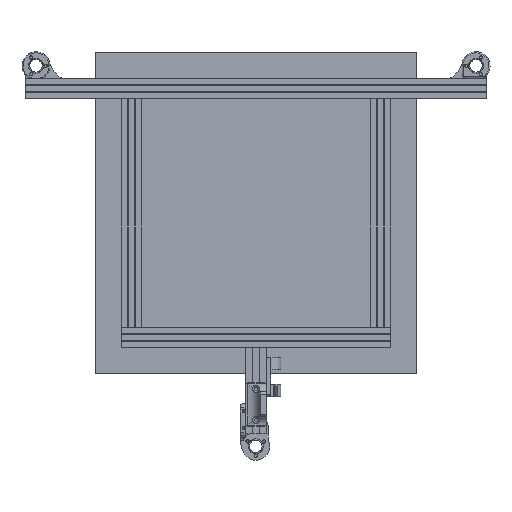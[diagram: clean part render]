
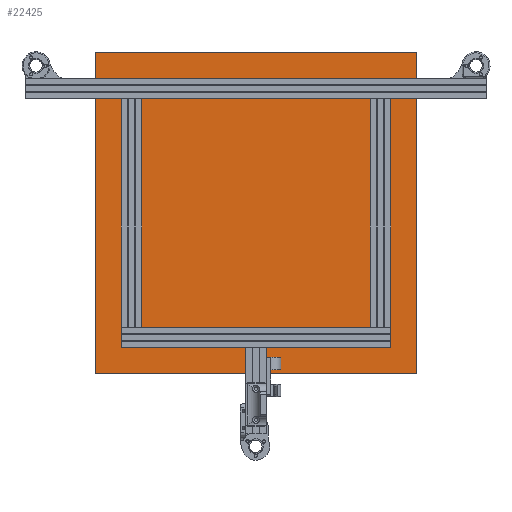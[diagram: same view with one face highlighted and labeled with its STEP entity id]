
A CAD part, front view. The second image highlights one B-rep face of the part: STEP entity #22425.
In plain terms, the highlighted planar face has unit normal (0, -1, 0) as drawn and (0, 0, -1) by its records, which use the part's own axes.
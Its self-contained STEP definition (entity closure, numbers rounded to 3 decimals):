
#104 = LINE ( 'NONE', #12448, #21754 ) ;
#422 = VECTOR ( 'NONE', #4735, 1000. ) ;
#605 = CIRCLE ( 'NONE', #9090, 2. ) ;
#658 = CARTESIAN_POINT ( 'NONE',  ( -120., -120., 0. ) ) ;
#855 = DIRECTION ( 'NONE',  ( 0., 0., 1. ) ) ;
#1354 = AXIS2_PLACEMENT_3D ( 'NONE', #11448, #855, #18484 ) ;
#1377 = LINE ( 'NONE', #15314, #6394 ) ;
#2179 = DIRECTION ( 'NONE',  ( 1., 0., 0. ) ) ;
#2246 = CARTESIAN_POINT ( 'NONE',  ( 120., -120., 0. ) ) ;
#2369 = DIRECTION ( 'NONE',  ( 1., 0., 0. ) ) ;
#2487 = VERTEX_POINT ( 'NONE', #10681 ) ;
#2858 = DIRECTION ( 'NONE',  ( 0., -1., 0. ) ) ;
#3085 = ORIENTED_EDGE ( 'NONE', *, *, #7089, .T. ) ;
#3139 = CARTESIAN_POINT ( 'NONE',  ( 122., -120., 0. ) ) ;
#3487 = ORIENTED_EDGE ( 'NONE', *, *, #12320, .T. ) ;
#3901 = CARTESIAN_POINT ( 'NONE',  ( -122., -120., 0. ) ) ;
#4250 = EDGE_CURVE ( 'NONE', #20911, #2487, #17415, .T. ) ;
#4345 = LINE ( 'NONE', #11373, #12307 ) ;
#4476 = FACE_OUTER_BOUND ( 'NONE', #14468, .T. ) ;
#4606 = FACE_BOUND ( 'NONE', #22797, .T. ) ;
#4704 = EDGE_LOOP ( 'NONE', ( #17327, #21237 ) ) ;
#4735 = DIRECTION ( 'NONE',  ( 0., 1., 0. ) ) ;
#4747 = DIRECTION ( 'NONE',  ( 1., 0., 0. ) ) ;
#4951 = EDGE_CURVE ( 'NONE', #19278, #15792, #1377, .T. ) ;
#4976 = DIRECTION ( 'NONE',  ( 1., 0., 0. ) ) ;
#5527 = EDGE_CURVE ( 'NONE', #9954, #7272, #5591, .T. ) ;
#5591 = CIRCLE ( 'NONE', #9981, 2. ) ;
#6394 = VECTOR ( 'NONE', #2858, 1000. ) ;
#6458 = DIRECTION ( 'NONE',  ( 1., 0., 0. ) ) ;
#7089 = EDGE_CURVE ( 'NONE', #9821, #19487, #7829, .T. ) ;
#7272 = VERTEX_POINT ( 'NONE', #11460 ) ;
#7783 = EDGE_CURVE ( 'NONE', #19487, #9821, #11177, .T. ) ;
#7829 = CIRCLE ( 'NONE', #21091, 2. ) ;
#8434 = DIRECTION ( 'NONE',  ( 0., 0., 1. ) ) ;
#8444 = DIRECTION ( 'NONE',  ( 0., 0., 1. ) ) ;
#8687 = CARTESIAN_POINT ( 'NONE',  ( -120., -120., 0. ) ) ;
#9090 = AXIS2_PLACEMENT_3D ( 'NONE', #2246, #9282, #2369 ) ;
#9282 = DIRECTION ( 'NONE',  ( 0., 0., 1. ) ) ;
#9297 = DIRECTION ( 'NONE',  ( 1., 0., 0. ) ) ;
#9633 = AXIS2_PLACEMENT_3D ( 'NONE', #15349, #8434, #4976 ) ;
#9821 = VERTEX_POINT ( 'NONE', #3901 ) ;
#9954 = VERTEX_POINT ( 'NONE', #22245 ) ;
#9981 = AXIS2_PLACEMENT_3D ( 'NONE', #10784, #11112, #12632 ) ;
#10143 = FACE_BOUND ( 'NONE', #4704, .T. ) ;
#10291 = CARTESIAN_POINT ( 'NONE',  ( 120., 120., 0. ) ) ;
#10519 = VERTEX_POINT ( 'NONE', #12638 ) ;
#10681 = CARTESIAN_POINT ( 'NONE',  ( 122., 120., 0. ) ) ;
#10726 = EDGE_CURVE ( 'NONE', #15717, #15711, #605, .T. ) ;
#10756 = EDGE_CURVE ( 'NONE', #2487, #20911, #21241, .T. ) ;
#10763 = ORIENTED_EDGE ( 'NONE', *, *, #15143, .F. ) ;
#10784 = CARTESIAN_POINT ( 'NONE',  ( -120., 120., 0. ) ) ;
#11085 = DIRECTION ( 'NONE',  ( 0., 0., 1. ) ) ;
#11112 = DIRECTION ( 'NONE',  ( 0., 0., 1. ) ) ;
#11177 = CIRCLE ( 'NONE', #11530, 2. ) ;
#11257 = DIRECTION ( 'NONE',  ( 0., 0., 1. ) ) ;
#11373 = CARTESIAN_POINT ( 'NONE',  ( -155., -155., 0. ) ) ;
#11448 = CARTESIAN_POINT ( 'NONE',  ( 120., 120., 0. ) ) ;
#11460 = CARTESIAN_POINT ( 'NONE',  ( -118., 120., 0. ) ) ;
#11530 = AXIS2_PLACEMENT_3D ( 'NONE', #8687, #8444, #12236 ) ;
#11827 = AXIS2_PLACEMENT_3D ( 'NONE', #21485, #11085, #12922 ) ;
#12236 = DIRECTION ( 'NONE',  ( 1., 0., 0. ) ) ;
#12307 = VECTOR ( 'NONE', #2179, 1000. ) ;
#12320 = EDGE_CURVE ( 'NONE', #15711, #15717, #15500, .T. ) ;
#12328 = EDGE_CURVE ( 'NONE', #15985, #10519, #22391, .T. ) ;
#12448 = CARTESIAN_POINT ( 'NONE',  ( -155., 155., 0. ) ) ;
#12632 = DIRECTION ( 'NONE',  ( 1., 0., 0. ) ) ;
#12638 = CARTESIAN_POINT ( 'NONE',  ( 155., 155., 0. ) ) ;
#12922 = DIRECTION ( 'NONE',  ( 1., 0., 0. ) ) ;
#14292 = DIRECTION ( 'NONE',  ( -1., 0., 0. ) ) ;
#14468 = EDGE_LOOP ( 'NONE', ( #14796, #10763, #22347, #20987 ) ) ;
#14796 = ORIENTED_EDGE ( 'NONE', *, *, #12328, .F. ) ;
#14876 = CARTESIAN_POINT ( 'NONE',  ( 155., -155., 0. ) ) ;
#15130 = DIRECTION ( 'NONE',  ( 0., 0., 1. ) ) ;
#15143 = EDGE_CURVE ( 'NONE', #15792, #15985, #4345, .T. ) ;
#15314 = CARTESIAN_POINT ( 'NONE',  ( -155., 155., 0. ) ) ;
#15327 = FACE_BOUND ( 'NONE', #18381, .T. ) ;
#15349 = CARTESIAN_POINT ( 'NONE',  ( 120., -120., 0. ) ) ;
#15500 = CIRCLE ( 'NONE', #9633, 2. ) ;
#15625 = ORIENTED_EDGE ( 'NONE', *, *, #18377, .T. ) ;
#15711 = VERTEX_POINT ( 'NONE', #20901 ) ;
#15717 = VERTEX_POINT ( 'NONE', #3139 ) ;
#15792 = VERTEX_POINT ( 'NONE', #17892 ) ;
#15985 = VERTEX_POINT ( 'NONE', #14876 ) ;
#16696 = ORIENTED_EDGE ( 'NONE', *, *, #7783, .T. ) ;
#17057 = CARTESIAN_POINT ( 'NONE',  ( 0., 0., 0. ) ) ;
#17178 = PLANE ( 'NONE',  #19752 ) ;
#17327 = ORIENTED_EDGE ( 'NONE', *, *, #4250, .T. ) ;
#17367 = EDGE_CURVE ( 'NONE', #10519, #19278, #104, .T. ) ;
#17415 = CIRCLE ( 'NONE', #20724, 2. ) ;
#17892 = CARTESIAN_POINT ( 'NONE',  ( -155., -155., 0. ) ) ;
#18377 = EDGE_CURVE ( 'NONE', #7272, #9954, #19599, .T. ) ;
#18381 = EDGE_LOOP ( 'NONE', ( #3487, #19737 ) ) ;
#18484 = DIRECTION ( 'NONE',  ( 1., 0., 0. ) ) ;
#18705 = CARTESIAN_POINT ( 'NONE',  ( 155., 155., 0. ) ) ;
#18902 = FACE_BOUND ( 'NONE', #22597, .T. ) ;
#19278 = VERTEX_POINT ( 'NONE', #20465 ) ;
#19487 = VERTEX_POINT ( 'NONE', #20913 ) ;
#19599 = CIRCLE ( 'NONE', #11827, 2. ) ;
#19737 = ORIENTED_EDGE ( 'NONE', *, *, #10726, .T. ) ;
#19752 = AXIS2_PLACEMENT_3D ( 'NONE', #17057, #20626, #6458 ) ;
#20465 = CARTESIAN_POINT ( 'NONE',  ( -155., 155., 0. ) ) ;
#20540 = CARTESIAN_POINT ( 'NONE',  ( 118., 120., 0. ) ) ;
#20626 = DIRECTION ( 'NONE',  ( 0., 0., 1. ) ) ;
#20724 = AXIS2_PLACEMENT_3D ( 'NONE', #10291, #15130, #4747 ) ;
#20901 = CARTESIAN_POINT ( 'NONE',  ( 118., -120., 0. ) ) ;
#20911 = VERTEX_POINT ( 'NONE', #20540 ) ;
#20913 = CARTESIAN_POINT ( 'NONE',  ( -118., -120., 0. ) ) ;
#20987 = ORIENTED_EDGE ( 'NONE', *, *, #17367, .F. ) ;
#21091 = AXIS2_PLACEMENT_3D ( 'NONE', #658, #11257, #9297 ) ;
#21237 = ORIENTED_EDGE ( 'NONE', *, *, #10756, .T. ) ;
#21241 = CIRCLE ( 'NONE', #1354, 2. ) ;
#21485 = CARTESIAN_POINT ( 'NONE',  ( -120., 120., 0. ) ) ;
#21754 = VECTOR ( 'NONE', #14292, 1000. ) ;
#21822 = ORIENTED_EDGE ( 'NONE', *, *, #5527, .T. ) ;
#22245 = CARTESIAN_POINT ( 'NONE',  ( -122., 120., 0. ) ) ;
#22347 = ORIENTED_EDGE ( 'NONE', *, *, #4951, .F. ) ;
#22391 = LINE ( 'NONE', #18705, #422 ) ;
#22425 = ADVANCED_FACE ( 'NONE', ( #4476, #4606, #18902, #15327, #10143 ), #17178, .F. ) ;
#22597 = EDGE_LOOP ( 'NONE', ( #3085, #16696 ) ) ;
#22797 = EDGE_LOOP ( 'NONE', ( #21822, #15625 ) ) ;
